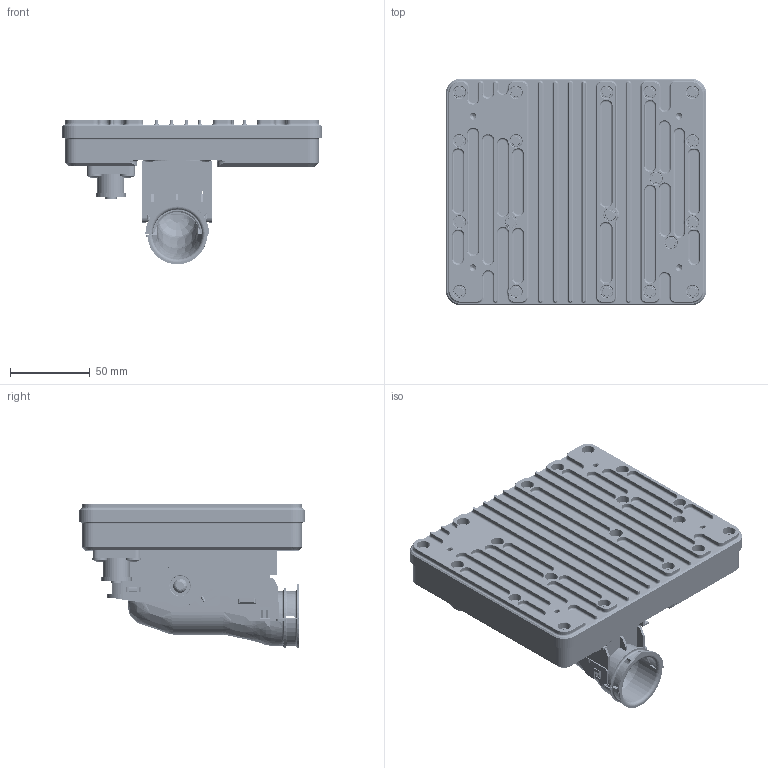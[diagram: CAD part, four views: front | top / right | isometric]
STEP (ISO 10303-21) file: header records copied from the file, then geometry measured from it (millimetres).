
FILE_DESCRIPTION(('CATIA V5 STEP Exchange'),'2;1');
FILE_NAME('T:\PDUX2B_Std_Lid\230326_sent_to_AS\LFR-560-01_PDUX2B_ASSY_STD_LID_AllCATPart.stp','2024-03-26T14:50:46+00:00',('none'),('none'),'CATIA Version 5 Release 19 SP 9 (IN-10)','CATIA V5 STEP AP214','none');
FILE_SCHEMA(('AUTOMOTIVE_DESIGN { 1 0 10303 214 1 1 1 1 }'));
Products named in the file (1): LFR-560-01_PDUX2B_ASSY_STD_LID_AllCATPart
Bounding box: 163.5 x 142.25 x 90.85 mm (x, y, z)
Volume: 182608 mm3; surface area: 213972.7 mm2
Topology: 33 solids, 188 shells, 6378 faces, 16739 edges, 10832 vertices
Faces by surface type: plane 3634, cylinder 1549, torus 588, cone 536, bspline 43, sphere 26, extrusion 2
Entity records: 189400 total; most frequent: CARTESIAN_POINT 41532, ORIENTED_EDGE 31298, DIRECTION 26447, EDGE_CURVE 15701, VECTOR 10774, LINE 10772, AXIS2_PLACEMENT_3D 9846, VERTEX_POINT 9817
